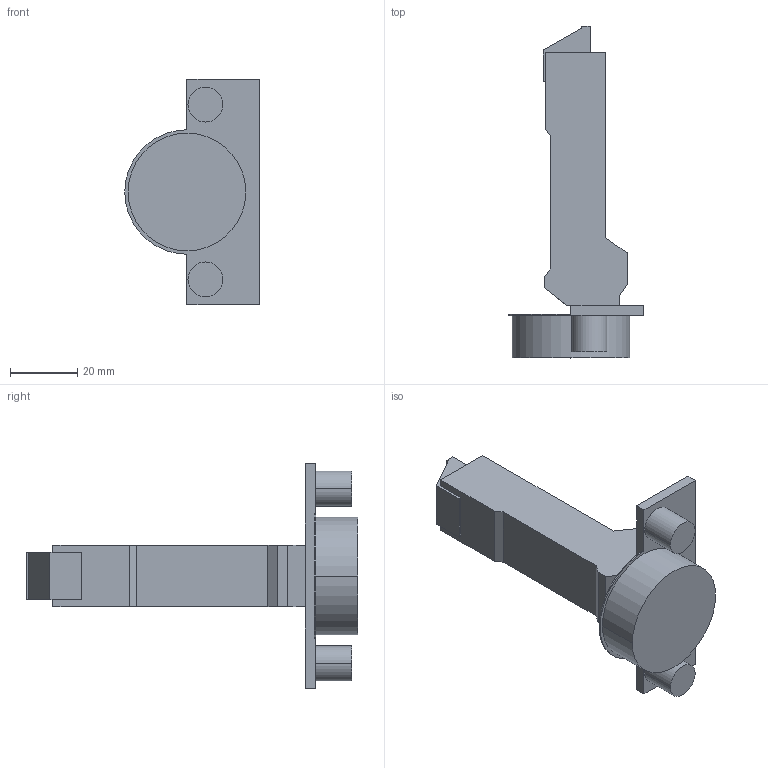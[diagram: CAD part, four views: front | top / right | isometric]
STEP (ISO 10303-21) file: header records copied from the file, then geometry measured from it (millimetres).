
FILE_DESCRIPTION (( 'STEP AP214' ), '1' );
FILE_NAME ('Scharnier TS Click-on 120° H_BB, K95_Dübel.step', '2010-12-06T09:58:48', ( 'grass' ), ( '' ), 'SwSTEP 2.0', 'SolidWorks 2010', '' );
FILE_SCHEMA (( 'AUTOMOTIVE_DESIGN' ));
Length unit declared in the file: millimetre
Products named in the file (1): Scharnier TS Click-on 120° H_BB, K95_Dübel
Bounding box: 40 x 98.7 x 67 mm (x, y, z)
Volume: 44268.6 mm3; surface area: 12779 mm2
Topology: 1 solids, 1 shells, 57 faces, 139 edges, 92 vertices
Faces by surface type: plane 40, cylinder 17
Entity records: 1705 total; most frequent: DIRECTION 289, CARTESIAN_POINT 289, ORIENTED_EDGE 278, EDGE_CURVE 139, LINE 105, VECTOR 105, VERTEX_POINT 92, AXIS2_PLACEMENT_3D 92
